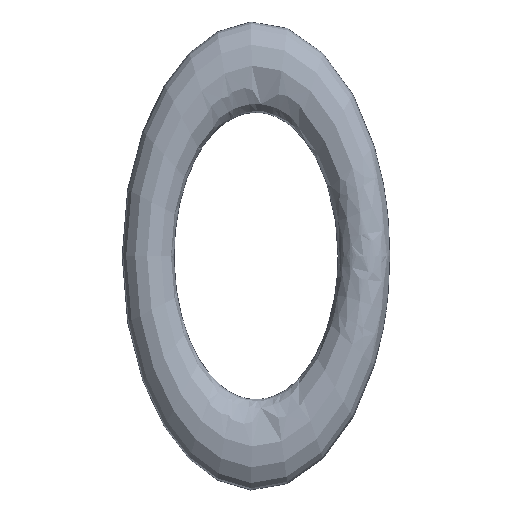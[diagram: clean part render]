
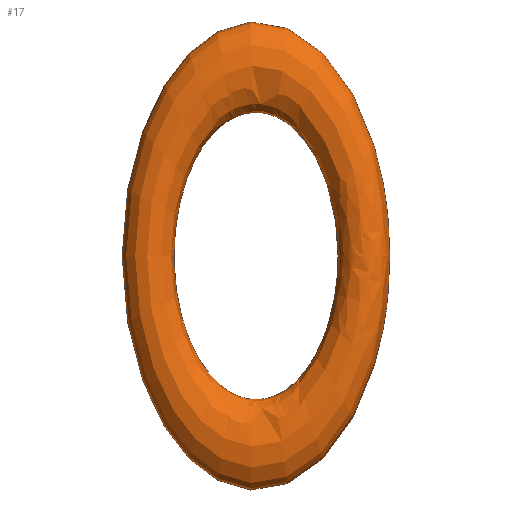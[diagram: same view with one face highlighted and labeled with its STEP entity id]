
A CAD part, front view. The second image highlights one B-rep face of the part: STEP entity #17.
In plain terms, the highlighted free-form (B-spline) face has degree [2, 2] with [7, 7] control points.
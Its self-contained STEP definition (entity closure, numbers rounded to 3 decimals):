
#17 = ADVANCED_FACE('',(#18),#22,.F.);
#18 = FACE_BOUND('',#19,.F.);
#19 = VERTEX_LOOP('',#20);
#20 = VERTEX_POINT('',#21);
#21 = CARTESIAN_POINT('',(19.,-40.,-105.));
#22 = ( BOUNDED_SURFACE() B_SPLINE_SURFACE(2,2,(
    (#23,#24,#25,#26,#27,#28,#29)
    ,(#30,#31,#32,#33,#34,#35,#36)
    ,(#37,#38,#39,#40,#41,#42,#43)
    ,(#44,#45,#46,#47,#48,#49,#50)
    ,(#51,#52,#53,#54,#55,#56,#57)
    ,(#58,#59,#60,#61,#62,#63,#64)
    ,(#65,#66,#67,#68,#69,#70,#71
)),.UNSPECIFIED.,.T.,.T.,.F.) B_SPLINE_SURFACE_WITH_KNOTS((1,2,2,2,2,1),
  (3,2,2,3),(-2.094,0.,2.094,4.189,
    6.283,8.378),(3.142,5.236,
    7.33,9.425),.UNSPECIFIED.) 
GEOMETRIC_REPRESENTATION_ITEM() RATIONAL_B_SPLINE_SURFACE((
    (1.,0.5,1.,0.5,1.,0.5,1.)
    ,(0.5,0.25,0.5,0.25,0.5,0.25,0.5)
    ,(1.,0.5,1.,0.5,1.,0.5,1.)
    ,(0.5,0.25,0.5,0.25,0.5,0.25,0.5)
    ,(1.,0.5,1.,0.5,1.,0.5,1.)
    ,(0.5,0.25,0.5,0.25,0.5,0.25,0.5)
,(1.,0.5,1.,0.5,1.,0.5,1.))) REPRESENTATION_ITEM('') SURFACE() );
#23 = CARTESIAN_POINT('',(19.,-40.,-105.));
#24 = CARTESIAN_POINT('',(19.,-50.392,-105.));
#25 = CARTESIAN_POINT('',(28.,-45.196,-105.));
#26 = CARTESIAN_POINT('',(37.,-40.,-105.));
#27 = CARTESIAN_POINT('',(28.,-34.804,-105.));
#28 = CARTESIAN_POINT('',(19.,-29.608,-105.));
#29 = CARTESIAN_POINT('',(19.,-40.,-105.));
#30 = CARTESIAN_POINT('',(19.,-40.,-47.409));
#31 = CARTESIAN_POINT('',(19.,-50.392,-47.409));
#32 = CARTESIAN_POINT('',(28.,-45.196,-20.13));
#33 = CARTESIAN_POINT('',(37.,-40.,7.15));
#34 = CARTESIAN_POINT('',(28.,-34.804,-20.13));
#35 = CARTESIAN_POINT('',(19.,-29.608,-47.409));
#36 = CARTESIAN_POINT('',(19.,-40.,-47.409));
#37 = CARTESIAN_POINT('',(-9.5,-40.,-76.205));
#38 = CARTESIAN_POINT('',(-9.5,-50.392,-76.205));
#39 = CARTESIAN_POINT('',(-14.,-45.196,-62.565));
#40 = CARTESIAN_POINT('',(-18.5,-40.,-48.925));
#41 = CARTESIAN_POINT('',(-14.,-34.804,-62.565));
#42 = CARTESIAN_POINT('',(-9.5,-29.608,-76.205));
#43 = CARTESIAN_POINT('',(-9.5,-40.,-76.205));
#44 = CARTESIAN_POINT('',(-38.,-40.,-105.));
#45 = CARTESIAN_POINT('',(-38.,-50.392,-105.));
#46 = CARTESIAN_POINT('',(-56.,-45.196,-105.));
#47 = CARTESIAN_POINT('',(-74.,-40.,-105.));
#48 = CARTESIAN_POINT('',(-56.,-34.804,-105.));
#49 = CARTESIAN_POINT('',(-38.,-29.608,-105.));
#50 = CARTESIAN_POINT('',(-38.,-40.,-105.));
#51 = CARTESIAN_POINT('',(-9.5,-40.,-133.795));
#52 = CARTESIAN_POINT('',(-9.5,-50.392,-133.795));
#53 = CARTESIAN_POINT('',(-14.,-45.196,-147.435));
#54 = CARTESIAN_POINT('',(-18.5,-40.,-161.075));
#55 = CARTESIAN_POINT('',(-14.,-34.804,-147.435));
#56 = CARTESIAN_POINT('',(-9.5,-29.608,-133.795));
#57 = CARTESIAN_POINT('',(-9.5,-40.,-133.795));
#58 = CARTESIAN_POINT('',(19.,-40.,-162.591));
#59 = CARTESIAN_POINT('',(19.,-50.392,-162.591));
#60 = CARTESIAN_POINT('',(28.,-45.196,-189.87));
#61 = CARTESIAN_POINT('',(37.,-40.,-217.15));
#62 = CARTESIAN_POINT('',(28.,-34.804,-189.87));
#63 = CARTESIAN_POINT('',(19.,-29.608,-162.591));
#64 = CARTESIAN_POINT('',(19.,-40.,-162.591));
#65 = CARTESIAN_POINT('',(19.,-40.,-105.));
#66 = CARTESIAN_POINT('',(19.,-50.392,-105.));
#67 = CARTESIAN_POINT('',(28.,-45.196,-105.));
#68 = CARTESIAN_POINT('',(37.,-40.,-105.));
#69 = CARTESIAN_POINT('',(28.,-34.804,-105.));
#70 = CARTESIAN_POINT('',(19.,-29.608,-105.));
#71 = CARTESIAN_POINT('',(19.,-40.,-105.));
